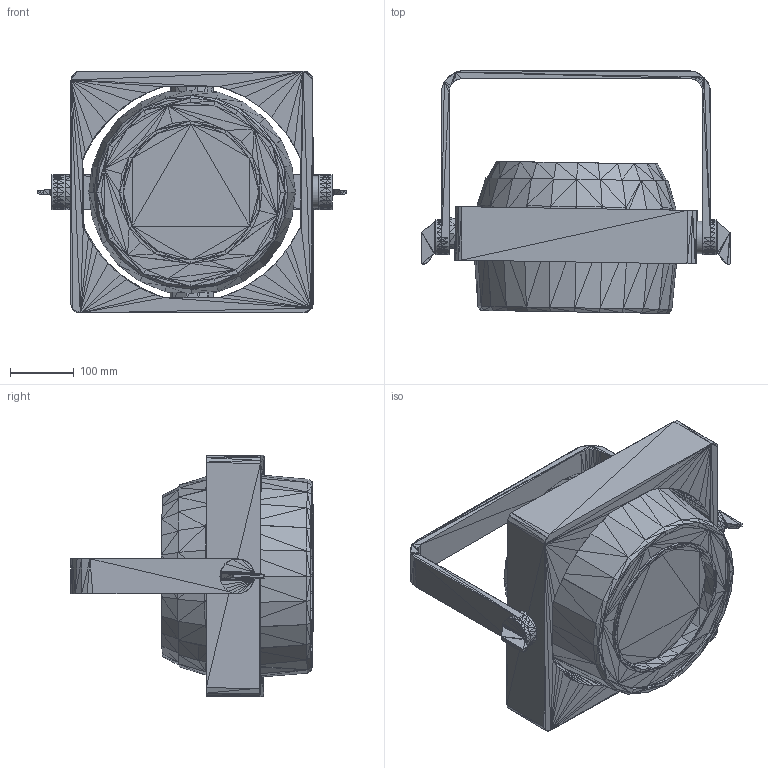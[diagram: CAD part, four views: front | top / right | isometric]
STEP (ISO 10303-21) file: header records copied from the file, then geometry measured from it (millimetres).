
FILE_DESCRIPTION(/* description */ (''),/* implementation_level */ '2;1');
FILE_NAME(/* name */ 'Strike Array Ultra_90.stp',/* time_stamp */ '2026-03-10T10:37:28-04:00',/* author */ ('chenry'),/* organization */ (''),/* preprocessor_version */ 'ST-DEVELOPER v20',/* originating_system */ 'Autodesk Inventor 2024',/* authorisation */ '');
FILE_SCHEMA (('AUTOMOTIVE_DESIGN { 1 0 10303 214 3 1 1 }'));
Length unit declared in the file: millimetre
Products named in the file (7): 00-CH-EB1000-IP00_ASM; Component140; bracket; Component141; Frame; Head; Part18
Assembly tree (6 placements, depth 4):
  00-CH-EB1000-IP00_ASM
    Component140
      bracket
    Component141
      Frame
        Head
        Part18
Bounding box: 485.06 x 381.05 x 379.73 mm (x, y, z)
Volume: 21382789.6 mm3; surface area: 842185.9 mm2
Topology: 5 solids, 5 shells, 1773 faces, 2770 edges, 949 vertices
Faces by surface type: plane 1771, cylinder 2
Full cylindrical faces by diameter (mm): 50.644 x2
Entity records: 35760 total; most frequent: DIRECTION 6358, ORIENTED_EDGE 5540, CARTESIAN_POINT 5505, EDGE_CURVE 2770, LINE 2754, VECTOR 2754, AXIS2_PLACEMENT_3D 1802, FACE_OUTER_BOUND 1773
